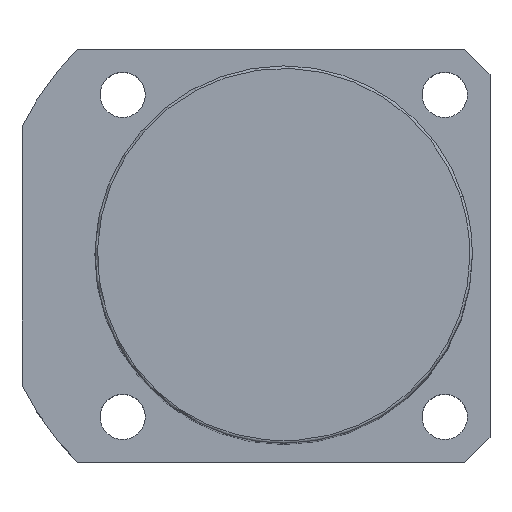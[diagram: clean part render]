
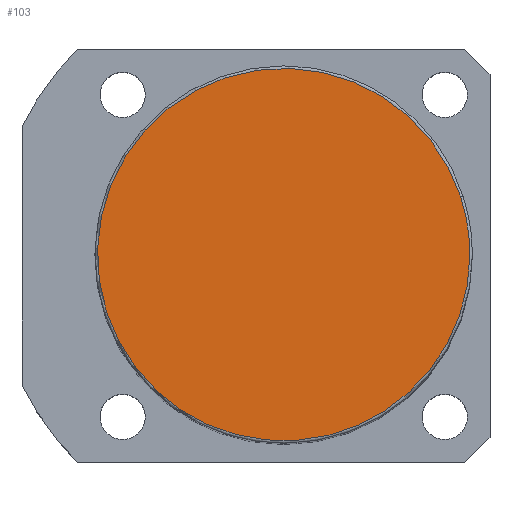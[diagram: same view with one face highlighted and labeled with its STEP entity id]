
A CAD part, top view. The second image highlights one B-rep face of the part: STEP entity #103.
In plain terms, the highlighted planar face has unit normal (0, 0, 1).
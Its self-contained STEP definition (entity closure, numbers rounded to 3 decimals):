
#16=CARTESIAN_POINT('',(-35.189,-11.434,163.0));
#17=VERTEX_POINT('',#16);
#54=CARTESIAN_POINT('',(35.189,11.434,163.0));
#55=VERTEX_POINT('',#54);
#63=CARTESIAN_POINT('',(37.0,0.0,163.0));
#64=VERTEX_POINT('',#63);
#65=CARTESIAN_POINT('',(0.0,0.0,163.0));
#66=DIRECTION('',(0.0,0.0,1.0));
#67=DIRECTION('',(1.0,0.0,0.0));
#68=AXIS2_PLACEMENT_3D('',#65,#66,#67);
#69=CIRCLE('',#68,37.0);
#70=EDGE_CURVE('no 898',#64,#55,#69,.T.);
#72=CARTESIAN_POINT('',(0.0,0.0,163.0));
#73=DIRECTION('',(0.0,0.0,1.0));
#74=DIRECTION('',(1.0,0.0,0.0));
#75=AXIS2_PLACEMENT_3D('',#72,#73,#74);
#76=CIRCLE('',#75,37.0);
#77=EDGE_CURVE('no 902',#17,#64,#76,.T.);
#87=ORIENTED_EDGE('',*,*,#70,.T.);
#88=CARTESIAN_POINT('',(0.0,0.0,163.0));
#89=DIRECTION('',(0.0,0.0,1.0));
#90=DIRECTION('',(1.0,0.0,0.0));
#91=AXIS2_PLACEMENT_3D('',#88,#89,#90);
#92=CIRCLE('',#91,37.0);
#93=EDGE_CURVE('no 911',#55,#17,#92,.T.);
#94=ORIENTED_EDGE('',*,*,#93,.T.);
#95=ORIENTED_EDGE('',*,*,#77,.T.);
#96=EDGE_LOOP('',(#87,#94,#95));
#97=FACE_OUTER_BOUND('',#96,.T.);
#98=CARTESIAN_POINT('',(0.0,0.0,163.0));
#99=DIRECTION('',(0.0,0.0,1.0));
#100=DIRECTION('',(1.0,0.0,0.0));
#101=AXIS2_PLACEMENT_3D('',#98,#99,#100);
#102=PLANE('',#101);
#103=ADVANCED_FACE('no 904',(#97),#102,.T.);
